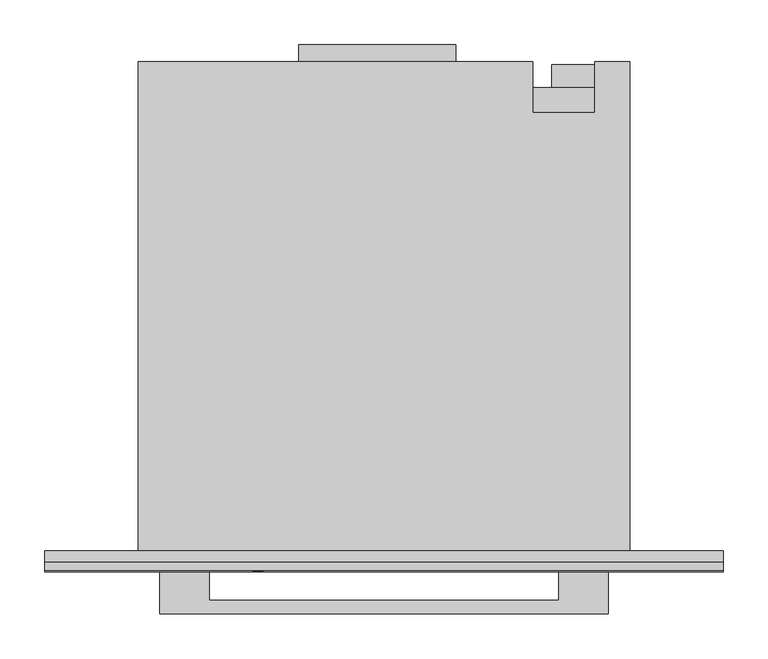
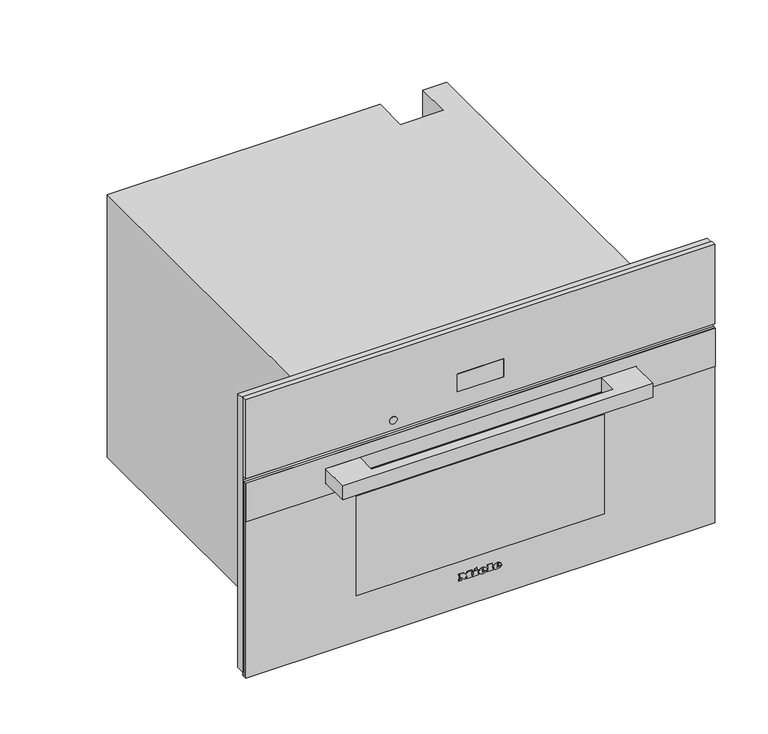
"""IFC4 building model written with IfcOpenShell, lengths in millimetres: proxy geometry, 11876230_USA_DGC7470_EDST-CLST : 23747042_USA_11876230_DGC7470_EDST-CLST."""

from ifc_helpers import new_model, si_unit, point, frame, frame_2d, origin, place, context, project, spatial, polyline, circle_curve, ellipse_curve, trimmed, segment, composite_curve, outline, extrude, faceted_brep, source, transform, mapped, element, save
from ifc_brep_helpers import plane_surface, cylinder_surface, revolved_surface, extruded_surface, advanced_brep


def specialty_equipment_19ac06d2(model_context):
    return source(origin(), model_context, "Body", "SolidModel", [
        faceted_brep([(378.5, -13.0, 476.0), (-378.5, -13.0, 476.0), (-378.5, -13.0, 9.0), (-272.5, -13.0, 9.0), (-272.5, -13.0, 344.0), (272.5, -13.0, 344.0), (272.5, -13.0, 9.0), (378.5, -13.0, 9.0), (378.5, 0.0, 476.0), (378.5, 0.0, 9.0), (-378.5, 0.0, 9.0), (-378.5, 0.0, 476.0), (231.0, 0.0, 58.0), (231.0, 0.0, 286.0), (-231.0, 0.0, 286.0), (-231.0, 0.0, 58.0), (272.5, -5.0, 9.0), (-272.5, -5.0, 9.0), (-272.5, -5.0, 344.0), (272.5, -5.0, 344.0), (231.0, -5.0, 286.0), (231.0, -5.0, 58.0), (-231.0, -5.0, 58.0), (-231.0, -5.0, 286.0)], [[[0, 1, 2, 3, 4, 5, 6, 7]], [[8, 9, 10, 11], [12, 13, 14, 15]], [[1, 0, 8, 11]], [[2, 1, 11, 10]], [[10, 9, 7, 6, 16, 17, 3, 2]], [[0, 7, 9, 8]], [[18, 19, 5, 4]], [[18, 4, 3, 17]], [[5, 19, 16, 6]], [[19, 18, 17, 16], [20, 21, 22, 23]], [[20, 13, 12, 21]], [[21, 12, 15, 22]], [[22, 15, 14, 23]], [[13, 20, 23, 14]]]),
        extrude(outline(polyline([(-95.0, 565.0), (80.0, 565.0), (80.0, 546.0), (-95.0, 546.0), (-95.0, 565.0)])), frame((0.0, 0.0, 260.0), z_axis=(0.0, 0.0, 1.0), x_axis=(1.0, 0.0, 0.0)), (0.0, 0.0, 1.0), 1.0),
        extrude(outline(polyline([(224.8383288, 537.0), (231.1236409, 537.0), (231.1236409, 526.9492425), (229.8571792, 526.9492425), (229.8571792, 535.7409796), (224.8383288, 535.7409796), (224.8383288, 537.0)])), frame((0.0, 0.0, 132.0), z_axis=(0.0, 0.0, 1.0), x_axis=(1.0, 0.0, 0.0)), (0.0, 0.0, 1.0), 1.0),
        extrude(outline(polyline([(233.0, 537.0), (240.3797826, 537.0), (240.3797826, 526.9503529), (233.15422, 526.9503529), (233.15422, 528.220938), (239.1355215, 528.220938), (239.1355215, 531.1975645), (233.4863097, 531.1975645), (233.4863097, 532.449242), (239.1355215, 532.449242), (239.1355215, 535.7448633), (233.0, 535.7448633), (233.0, 537.0)])), frame((0.0, 0.0, 132.0), z_axis=(0.0, 0.0, 1.0), x_axis=(1.0, 0.0, 0.0)), (0.0, 0.0, 1.0), 1.0),
        extrude(outline(composite_curve([segment(trimmed(circle_curve(frame_2d((233.0, 532.0)), 7.5), [point((225.5, 532.0))], [point((240.5, 532.0))], False, "CARTESIAN"), True, "CONTINUOUS"), segment(trimmed(circle_curve(frame_2d((233.0, 532.0)), 7.5), [point((240.5, 532.0))], [point((225.5, 532.0))], False, "CARTESIAN"), True, "CONTINUOUS")], self_intersect=False)), frame((0.0, 0.0, 133.0), z_axis=(0.0, 0.0, 1.0), x_axis=(1.0, 0.0, 0.0)), (0.0, 0.0, 1.0), 30.0),
        extrude(outline(polyline([(266.0, 517.0), (187.0, 517.0), (187.0, 543.0), (266.0, 543.0), (266.0, 517.0)])), frame((0.0, 0.0, 163.0), z_axis=(0.0, 0.0, 1.0), x_axis=(1.0, 0.0, 0.0)), (0.0, 0.0, 1.0), 111.0),
        faceted_brep([(-274.0, 546.0, 0.0), (-274.0, 546.0, 448.0), (166.0, 546.0, 448.0), (166.0, 546.0, 0.0), (235.0, 546.0, 448.0), (274.0, 546.0, 448.0), (274.0, 546.0, 338.0), (235.0, 546.0, 338.0), (274.0, 0.0, 448.0), (-274.0, 0.0, 448.0), (-274.0, 0.0, 0.0), (274.0, 0.0, 0.0), (231.0, 0.0, 286.0), (231.0, 0.0, 58.0), (-231.0, 0.0, 58.0), (-231.0, 0.0, 286.0), (235.0, 489.0, 448.0), (166.0, 489.0, 448.0), (166.0, 517.0, 0.0), (274.0, 517.0, 0.0), (274.0, 517.0, 338.0), (231.0, 411.0, 286.0), (-231.0, 411.0, 286.0), (-231.0, 411.0, 58.0), (231.0, 411.0, 58.0), (235.0, 489.0, 337.0), (166.0, 489.0, 337.0), (166.0, 517.0, 337.0), (235.0, 517.0, 337.0), (235.0, 517.0, 338.0)], [[[0, 1, 2, 3]], [[4, 5, 6, 7]], [[8, 9, 10, 11], [12, 13, 14, 15]], [[9, 8, 5, 4, 16, 17, 2, 1]], [[1, 0, 10, 9]], [[11, 10, 0, 3, 18, 19]], [[8, 11, 19, 20, 6, 5]], [[21, 22, 23, 24]], [[21, 24, 13, 12]], [[24, 23, 14, 13]], [[23, 22, 15, 14]], [[22, 21, 12, 15]], [[16, 25, 26, 17]], [[17, 26, 27, 18, 3, 2]], [[26, 25, 28, 27]], [[25, 16, 4, 7, 29, 28]], [[29, 20, 19, 18, 27, 28]], [[20, 29, 7, 6]]]),
        advanced_brep(
        [(26.2998, -23.0, 52.7018), (26.2998, -23.0, 53.8532), (33.9264, -23.0, 53.8532), (20.6568, -23.0, 53.8532), (23.7918, -23.0, 50.0), (33.7326, -23.0, 52.7018), (30.2898, -23.0, 52.7018), (27.5766, -23.0, 51.425), (26.2998, -23.0, 55.3124), (26.2998, -23.0, 56.555), (28.2492, -23.0, 56.555), (28.2492, -23.0, 55.3124), (26.2998, -22.0, 52.7018), (27.5766, -22.0, 51.425), (30.2898, -22.0, 52.7018), (33.7326, -22.0, 52.7018), (23.7918, -22.0, 50.0), (20.6568, -22.0, 53.8532), (33.9264, -22.0, 53.8532), (26.2998, -22.0, 53.8532), (26.2998, -22.0, 55.3124), (28.2492, -22.0, 55.3124), (28.2492, -22.0, 56.555), (26.2998, -22.0, 56.555)],
        [
            (0, 1),
            (1, 2),
            (2, 3, ellipse_curve(frame((27.2916, -23.0, 53.8532), z_axis=(0.0, -1.0, 0.0), x_axis=(-1.0, 0.0, 0.0)), 6.6348, 5.4834)),
            (3, 4, circle_curve(frame((25.0686622, -23.0, 54.2408), z_axis=(0.0, -1.0, 0.0), x_axis=(0.0, 0.0, -1.0)), 4.4288556)),
            (4, 5, circle_curve(frame((27.1587808, -23.0, 57.2504), z_axis=(0.0, -1.0, 0.0), x_axis=(0.0, 0.0, -1.0)), 7.9940516)),
            (5, 6),
            (6, 7, circle_curve(frame((28.1338588, -23.0, 53.762), z_axis=(0.0, 1.0, 0.0), x_axis=(0.0, 0.0, -1.0)), 2.4025208)),
            (7, 0, circle_curve(frame((27.5766, -23.0, 52.7018), z_axis=(0.0, 1.0, 0.0), x_axis=(0.0, 0.0, -1.0)), 1.2768)),
            (8, 9),
            (9, 10, circle_curve(frame((27.2745, -23.0, 56.555), z_axis=(0.0, 1.0, 0.0), x_axis=(0.0, 0.0, -1.0)), 0.9747)),
            (10, 11),
            (11, 8),
            (12, 13, circle_curve(frame((27.5766, -22.0, 52.7018), z_axis=(0.0, -1.0, 0.0), x_axis=(0.0, 0.0, -1.0)), 1.2768)),
            (13, 14, circle_curve(frame((28.1338588, -22.0, 53.762), z_axis=(0.0, -1.0, 0.0), x_axis=(0.0, 0.0, -1.0)), 2.4025208)),
            (14, 15),
            (15, 16, circle_curve(frame((27.1587808, -22.0, 57.2504), z_axis=(0.0, 1.0, 0.0), x_axis=(0.0, 0.0, -1.0)), 7.9940516)),
            (16, 17, circle_curve(frame((25.0686622, -22.0, 54.2408), z_axis=(0.0, 1.0, 0.0), x_axis=(0.0, 0.0, -1.0)), 4.4288556)),
            (17, 18, ellipse_curve(frame((27.2916, -22.0, 53.8532), z_axis=(0.0, 1.0, 0.0), x_axis=(-1.0, 0.0, 0.0)), 6.6348, 5.4834)),
            (18, 19),
            (19, 12),
            (20, 21),
            (21, 22),
            (22, 23, circle_curve(frame((27.2745, -22.0, 56.555), z_axis=(0.0, -1.0, 0.0), x_axis=(0.0, 0.0, -1.0)), 0.9747)),
            (23, 20),
            (0, 12),
            (19, 1),
            (18, 2),
            (5, 15),
            (14, 6),
            (17, 3),
            (13, 7),
            (16, 4),
            (8, 20),
            (23, 9),
            (22, 10),
            (21, 11),
        ],
        [
            plane_surface(frame((26.2998, -23.0, 53.8532), z_axis=(0.0, -1.0, 0.0), x_axis=(0.0, 0.0, 1.0))),
            plane_surface(frame((26.2998, -22.0, 53.8532), z_axis=(0.0, 1.0, 0.0), x_axis=(0.0, 0.0, -1.0))),
            plane_surface(frame((26.2998, -23.0, 52.7018), z_axis=(1.0, 0.0, 0.0), x_axis=(0.0, 1.0, 0.0))),
            plane_surface(frame((26.2998, -23.0, 53.8532), z_axis=(0.0, 0.0, -1.0), x_axis=(0.0, 1.0, 0.0))),
            plane_surface(frame((33.7326, -23.0, 52.7018), z_axis=(0.0, 0.0, 1.0), x_axis=(0.0, 1.0, 0.0))),
            extruded_surface(trimmed(ellipse_curve(frame((27.2916, -21.0, 53.8532), z_axis=(0.0, -1.0, 0.0), x_axis=(-1.0, 0.0, 0.0)), 6.6348, 5.4834), [point((33.9264, -21.0, 53.8532))], [point((20.6568, -21.0, 53.8532))], True, "CARTESIAN"), (0.0, -1.0, 0.0), 1.0),
            revolved_surface(polyline([(28.1338588, -22.0, 51.3594792), (28.1338588, -23.0, 51.3594792)]), (28.1338588, -22.0, 53.762), (0.0, 1.0, 0.0)),
            revolved_surface(polyline([(27.5766, -22.0, 51.425), (27.5766, -23.0, 51.425)]), (27.5766, -22.0, 52.7018), (0.0, 1.0, 0.0)),
            cylinder_surface(frame((25.0686622, -22.0, 54.2408), z_axis=(0.0, -1.0, 0.0), x_axis=(0.0, 0.0, -1.0)), 4.4288556),
            cylinder_surface(frame((27.1587808, -22.0, 57.2504), z_axis=(0.0, -1.0, 0.0), x_axis=(0.0, 0.0, -1.0)), 7.9940516),
            plane_surface(frame((26.2998, -23.0, 55.3124), z_axis=(1.0, 0.0, 0.0), x_axis=(0.0, 1.0, 0.0))),
            revolved_surface(polyline([(27.2745, -22.0, 55.5803), (27.2745, -23.0, 55.5803)]), (27.2745, -22.0, 56.555), (0.0, 1.0, 0.0)),
            plane_surface(frame((28.2492, -23.0, 56.555), z_axis=(-1.0, 0.0, 0.0), x_axis=(0.0, 1.0, 0.0))),
            plane_surface(frame((28.2492, -23.0, 55.3124), z_axis=(0.0, 0.0, 1.0), x_axis=(0.0, 1.0, 0.0))),
        ],
        [
            (0, [[1, 2, 3, 4, 5, 6, 7, 8], [9, 10, 11, 12]]),
            (1, [[13, 14, 15, 16, 17, 18, 19, 20], [21, 22, 23, 24]]),
            (2, [[-1, 25, -20, 26]]),
            (3, [[-2, -26, -19, 27]]),
            (4, [[-6, 28, -15, 29]]),
            (5, [[-3, -27, -18, 30]]),
            (6, [[-7, -29, -14, 31]]),
            (7, [[-8, -31, -13, -25]]),
            (8, [[-4, -30, -17, 32]]),
            (9, [[-5, -32, -16, -28]]),
            (10, [[-9, 33, -24, 34]]),
            (11, [[-10, -34, -23, 35]]),
            (12, [[-11, -35, -22, 36]]),
            (13, [[-12, -36, -21, -33]]),
        ],
    ),
        advanced_brep(
        [(2.508, -23.0, 52.7018), (2.508, -23.0, 53.8532), (10.1346, -23.0, 53.8532), (-3.135, -23.0, 53.8532), (0.0, -23.0, 50.0), (9.9408, -23.0, 52.7018), (6.498, -23.0, 52.7018), (3.7848, -23.0, 51.425), (2.508, -23.0, 55.3124), (2.508, -23.0, 56.555), (4.4574, -23.0, 56.555), (4.4574, -23.0, 55.3124), (2.508, -22.0, 52.7018), (3.7848, -22.0, 51.425), (6.498, -22.0, 52.7018), (9.9408, -22.0, 52.7018), (0.0, -22.0, 50.0), (-3.135, -22.0, 53.8532), (10.1346, -22.0, 53.8532), (2.508, -22.0, 53.8532), (2.508, -22.0, 55.3124), (4.4574, -22.0, 55.3124), (4.4574, -22.0, 56.555), (2.508, -22.0, 56.555)],
        [
            (0, 1),
            (1, 2),
            (2, 3, ellipse_curve(frame((3.4998, -23.0, 53.8532), z_axis=(0.0, -1.0, 0.0), x_axis=(-1.0, 0.0, 0.0)), 6.6348, 5.4834)),
            (3, 4, circle_curve(frame((1.2768622, -23.0, 54.2408), z_axis=(0.0, -1.0, 0.0), x_axis=(0.0, 0.0, -1.0)), 4.4288556)),
            (4, 5, circle_curve(frame((3.3669808, -23.0, 57.2504), z_axis=(0.0, -1.0, 0.0), x_axis=(0.0, 0.0, -1.0)), 7.9940516)),
            (5, 6),
            (6, 7, circle_curve(frame((4.3420588, -23.0, 53.762), z_axis=(0.0, 1.0, 0.0), x_axis=(0.0, 0.0, -1.0)), 2.4025208)),
            (7, 0, circle_curve(frame((3.7848, -23.0, 52.7018), z_axis=(0.0, 1.0, 0.0), x_axis=(0.0, 0.0, -1.0)), 1.2768)),
            (8, 9),
            (9, 10, circle_curve(frame((3.4827, -23.0, 56.555), z_axis=(0.0, 1.0, 0.0), x_axis=(0.0, 0.0, -1.0)), 0.9747)),
            (10, 11),
            (11, 8),
            (12, 13, circle_curve(frame((3.7848, -22.0, 52.7018), z_axis=(0.0, -1.0, 0.0), x_axis=(0.0, 0.0, -1.0)), 1.2768)),
            (13, 14, circle_curve(frame((4.3420588, -22.0, 53.762), z_axis=(0.0, -1.0, 0.0), x_axis=(0.0, 0.0, -1.0)), 2.4025208)),
            (14, 15),
            (15, 16, circle_curve(frame((3.3669808, -22.0, 57.2504), z_axis=(0.0, 1.0, 0.0), x_axis=(0.0, 0.0, -1.0)), 7.9940516)),
            (16, 17, circle_curve(frame((1.2768622, -22.0, 54.2408), z_axis=(0.0, 1.0, 0.0), x_axis=(0.0, 0.0, -1.0)), 4.4288556)),
            (17, 18, ellipse_curve(frame((3.4998, -22.0, 53.8532), z_axis=(0.0, 1.0, 0.0), x_axis=(-1.0, 0.0, 0.0)), 6.6348, 5.4834)),
            (18, 19),
            (19, 12),
            (20, 21),
            (21, 22),
            (22, 23, circle_curve(frame((3.4827, -22.0, 56.555), z_axis=(0.0, -1.0, 0.0), x_axis=(0.0, 0.0, -1.0)), 0.9747)),
            (23, 20),
            (0, 12),
            (19, 1),
            (18, 2),
            (5, 15),
            (14, 6),
            (17, 3),
            (13, 7),
            (16, 4),
            (8, 20),
            (23, 9),
            (22, 10),
            (21, 11),
        ],
        [
            plane_surface(frame((2.508, -23.0, 53.8532), z_axis=(0.0, -1.0, 0.0), x_axis=(0.0, 0.0, 1.0))),
            plane_surface(frame((2.508, -22.0, 53.8532), z_axis=(0.0, 1.0, 0.0), x_axis=(0.0, 0.0, -1.0))),
            plane_surface(frame((2.508, -23.0, 52.7018), z_axis=(1.0, 0.0, 0.0), x_axis=(0.0, 1.0, 0.0))),
            plane_surface(frame((2.508, -23.0, 53.8532), z_axis=(0.0, 0.0, -1.0), x_axis=(0.0, 1.0, 0.0))),
            plane_surface(frame((9.9408, -23.0, 52.7018), z_axis=(0.0, 0.0, 1.0), x_axis=(0.0, 1.0, 0.0))),
            extruded_surface(trimmed(ellipse_curve(frame((3.4998, -21.0, 53.8532), z_axis=(0.0, -1.0, 0.0), x_axis=(-1.0, 0.0, 0.0)), 6.6348, 5.4834), [point((10.1346, -21.0, 53.8532))], [point((-3.135, -21.0, 53.8532))], True, "CARTESIAN"), (0.0, -1.0, 0.0), 1.0),
            revolved_surface(polyline([(4.3420588, -22.0, 51.3594792), (4.3420588, -23.0, 51.3594792)]), (4.3420588, -22.0, 53.762), (0.0, 1.0, 0.0)),
            revolved_surface(polyline([(3.7848, -22.0, 51.425), (3.7848, -23.0, 51.425)]), (3.7848, -22.0, 52.7018), (0.0, 1.0, 0.0)),
            cylinder_surface(frame((1.2768622, -22.0, 54.2408), z_axis=(0.0, -1.0, 0.0), x_axis=(0.0, 0.0, -1.0)), 4.4288556),
            cylinder_surface(frame((3.3669808, -22.0, 57.2504), z_axis=(0.0, -1.0, 0.0), x_axis=(0.0, 0.0, -1.0)), 7.9940516),
            plane_surface(frame((2.508, -23.0, 55.3124), z_axis=(1.0, 0.0, 0.0), x_axis=(0.0, 1.0, 0.0))),
            revolved_surface(polyline([(3.4827, -22.0, 55.5803), (3.4827, -23.0, 55.5803)]), (3.4827, -22.0, 56.555), (0.0, 1.0, 0.0)),
            plane_surface(frame((4.4574, -23.0, 56.555), z_axis=(-1.0, 0.0, 0.0), x_axis=(0.0, 1.0, 0.0))),
            plane_surface(frame((4.4574, -23.0, 55.3124), z_axis=(0.0, 0.0, 1.0), x_axis=(0.0, 1.0, 0.0))),
        ],
        [
            (0, [[1, 2, 3, 4, 5, 6, 7, 8], [9, 10, 11, 12]]),
            (1, [[13, 14, 15, 16, 17, 18, 19, 20], [21, 22, 23, 24]]),
            (2, [[-1, 25, -20, 26]]),
            (3, [[-2, -26, -19, 27]]),
            (4, [[-6, 28, -15, 29]]),
            (5, [[-3, -27, -18, 30]]),
            (6, [[-7, -29, -14, 31]]),
            (7, [[-8, -31, -13, -25]]),
            (8, [[-4, -30, -17, 32]]),
            (9, [[-5, -32, -16, -28]]),
            (10, [[-9, 33, -24, 34]]),
            (11, [[-10, -34, -23, 35]]),
            (12, [[-11, -35, -22, 36]]),
            (13, [[-12, -36, -21, -33]]),
        ],
    ),
        extrude(outline(polyline([(60.7274, -9.9522), (58.8806, -9.0858), (60.6818, -5.2212), (62.5286, -6.0762), (60.7274, -9.9522)])), frame((0.0, -23.0, 0.0), z_axis=(0.0, 1.0, 0.0), x_axis=(0.0, 0.0, 1.0)), (0.0, 0.0, 1.0), 1.0),
        extrude(outline(polyline([(58.6298, -12.768), (56.5892, -12.768), (56.5892, -11.4114), (51.9152, -11.4114), (51.9152, -12.768), (50.0, -12.768), (50.0, -3.7734), (51.9152, -3.7734), (51.9152, -5.0958), (58.6298, -5.0958), (58.6298, -12.768)])), frame((0.0, -23.0, 0.0), z_axis=(0.0, 1.0, 0.0), x_axis=(0.0, 0.0, 1.0)), (0.0, 0.0, 1.0), 1.0),
        extrude(outline(polyline([(59.5418, 10.773), (59.5418, 12.141), (51.9152, 12.141), (51.9152, 10.773), (50.0, 10.773), (50.0, 20.0184), (51.9152, 20.0184), (51.9152, 18.6162), (61.4, 18.6162), (61.4, 10.773), (59.5418, 10.773)])), frame((0.0, -23.0, 0.0), z_axis=(0.0, 1.0, 0.0), x_axis=(0.0, 0.0, 1.0)), (0.0, 0.0, 1.0), 1.0),
        extrude(outline(polyline([(59.5418, -35.4882), (59.5418, -34.1088), (51.9152, -34.1088), (51.9152, -35.4882), (50.0, -35.4882), (50.0, -30.4722), (51.9152, -30.4722), (51.9152, -31.8402), (56.7429247, -31.8402), (50.0, -26.7444), (56.9402223, -21.6258), (51.9152, -21.6258), (51.9152, -23.028), (50.0, -23.028), (50.0, -13.9308), (51.9152, -13.9308), (51.9152, -15.3786), (59.5418, -15.3786), (59.5418, -13.9308), (61.4, -13.9308), (61.4, -20.8734), (57.125, -24.2022), (61.4, -27.5424), (61.4, -35.4882), (59.5418, -35.4882)])), frame((0.0, -23.0, 0.0), z_axis=(0.0, 1.0, 0.0), x_axis=(0.0, 0.0, 1.0)), (0.0, 0.0, 1.0), 1.0),
        extrude(outline(composite_curve([segment(trimmed(circle_curve(frame_2d((361.0, -140.5745637)), 6.0), [point((361.0, -146.5745637))], [point((361.0, -134.5745637))], False, "CARTESIAN"), True, "CONTINUOUS"), segment(trimmed(circle_curve(frame_2d((361.0, -140.5745637)), 6.0), [point((361.0, -134.5745637))], [point((361.0, -146.5745637))], False, "CARTESIAN"), True, "CONTINUOUS")], self_intersect=False)), frame((0.0, -22.5, 0.0), z_axis=(0.0, 1.0, 0.0), x_axis=(0.0, 0.0, 1.0)), (0.0, 0.0, 1.0), 1.0),
        extrude(outline(polyline([(-37.5, -21.0), (37.5, -21.0), (37.5, -22.0), (-37.5, -22.0), (-37.5, -21.0)])), frame((0.0, 0.0, 373.0), z_axis=(0.0, 0.0, 1.0), x_axis=(1.0, 0.0, 0.0)), (0.0, 0.0, 1.0), 30.5),
        faceted_brep([(378.5, -22.0, 479.0), (-378.5, -22.0, 479.0), (-378.5, -22.0, 344.0), (378.5, -22.0, 344.0), (37.5, -22.0, 403.5), (37.5, -22.0, 373.0), (-37.5, -22.0, 373.0), (-37.5, -22.0, 403.5), (378.5, -13.0, 479.0), (378.5, -13.0, 344.0), (-378.5, -13.0, 344.0), (-378.5, -13.0, 479.0), (37.5, -21.0, 403.5), (-37.5, -21.0, 403.5), (-37.5, -21.0, 373.0), (37.5, -21.0, 373.0)], [[[0, 1, 2, 3], [4, 5, 6, 7]], [[8, 9, 10, 11]], [[1, 0, 8, 11]], [[2, 1, 11, 10]], [[3, 2, 10, 9]], [[0, 3, 9, 8]], [[12, 13, 14, 15]], [[12, 15, 5, 4]], [[15, 14, 6, 5]], [[14, 13, 7, 6]], [[13, 12, 4, 7]]]),
        extrude(outline(polyline([(200.0, -22.0), (-200.0, -22.0), (-200.0, -18.0), (200.0, -18.0), (200.0, -22.0)])), frame((0.0, 0.0, 82.0), z_axis=(0.0, 0.0, 1.0), x_axis=(1.0, 0.0, 0.0)), (0.0, 0.0, 1.0), 170.0),
        extrude(outline(polyline([(337.0, 378.5), (337.0, -378.5), (4.0, -378.5), (4.0, 378.5), (337.0, 378.5)]), holes=[polyline([(252.0, -200.0), (252.0, 200.0), (82.0, 200.0), (82.0, -200.0), (252.0, -200.0)])]), frame((0.0, -22.0, 0.0), z_axis=(0.0, 1.0, 0.0), x_axis=(0.0, 0.0, 1.0)), (0.0, 0.0, 1.0), 4.0),
        extrude(outline(polyline([(337.0, 378.5), (337.0, -378.5), (272.0, -378.5), (272.0, 378.5), (337.0, 378.5)]), holes=[polyline([(317.0, -250.5), (317.0, 250.5), (292.0, 250.5), (292.0, -250.5), (317.0, -250.5)])]), frame((0.0, -23.3, 0.0), z_axis=(0.0, 1.0, 0.0), x_axis=(0.0, 0.0, 1.0)), (0.0, 0.0, 1.0), 1.3),
        extrude(outline(polyline([(-250.0, -70.3), (-250.0, -22.0), (-195.0, -22.0), (-195.0, -55.3), (195.0, -55.3), (195.0, -22.0), (250.0, -22.0), (250.0, -70.3), (-250.0, -70.3)])), frame((0.0, 0.0, 292.5), z_axis=(0.0, 0.0, 1.0), x_axis=(1.0, 0.0, 0.0)), (0.0, 0.0, 1.0), 24.0),
        extrude(outline(polyline([(378.5, -18.0), (-378.5, -18.0), (-378.5, -13.0), (378.5, -13.0), (378.5, -18.0)])), frame((0.0, 0.0, 4.0), z_axis=(0.0, 0.0, 1.0), x_axis=(1.0, 0.0, 0.0)), (0.0, 0.0, 1.0), 333.0),
    ])


if __name__ == "__main__":
    model = new_model("IFC4")
    model_context = context("Model", 3, world=origin())
    ifc_project = project(units=[si_unit("LENGTHUNIT", "METRE", prefix="MILLI")], contexts=[model_context])
    site = spatial("IfcSite", under=ifc_project)
    building = spatial("IfcBuilding", under=site)
    placement = place(None, origin())
    specialty_equipment_shape = specialty_equipment_19ac06d2(model_context)
    element("IfcBuildingElementProxy", 1, Name="11876230_USA_DGC7470_EDST-CLST : 23747042_USA_11876230_DGC7470_EDST-CLST", ObjectType="11876230_USA_DGC7470_EDST-CLST : 23747042_USA_11876230_DGC7470_EDST-CLST", at=placement, inside=building, context=model_context, shape_type="MappedRepresentation", body=[
        mapped(specialty_equipment_shape, transform((0.0, 0.0, 0.0), x_axis=(1.0, 0.0, 0.0), y_axis=(0.0, 1.0, 0.0), z_axis=(0.0, 0.0, 1.0))),
    ])
    save(model, "model.ifc")
